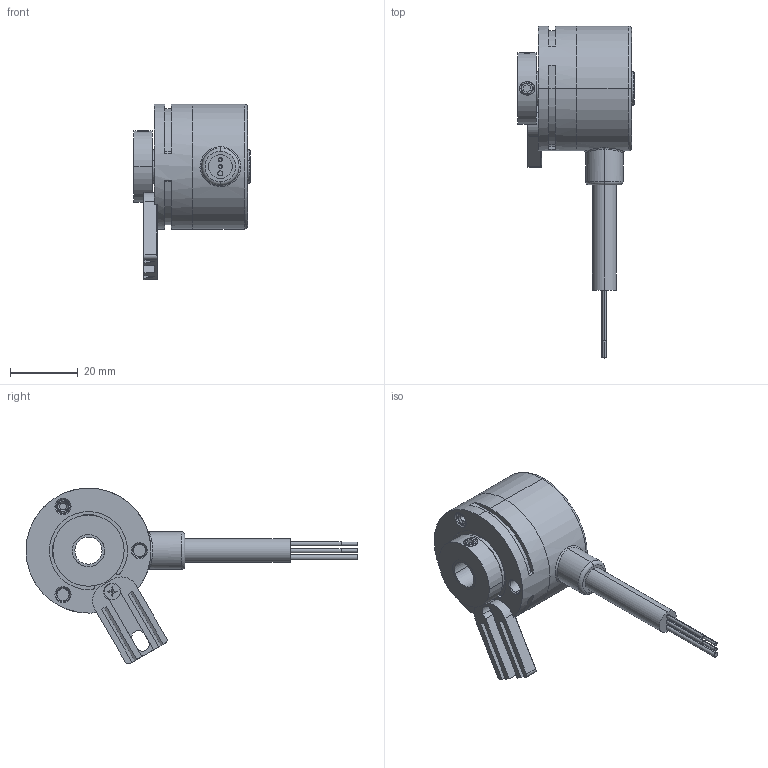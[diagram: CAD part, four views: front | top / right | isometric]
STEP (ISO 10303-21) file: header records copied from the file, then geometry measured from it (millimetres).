
FILE_DESCRIPTION (( 'STEP AP214' ), '1' );
FILE_NAME ('3720.26X1.XXXX.STEP', '2008-11-28T06:31:45', ( 'admin' ), ( 'Fritz Kübler GmbH' ), 'SwSTEP 2.0', 'SolidWorks 2008', '' );
FILE_SCHEMA (( 'AUTOMOTIVE_DESIGN' ));
Length unit declared in the file: millimetre
Products named in the file (1): 3720.26X1.XXXX
Bounding box: 34.3 x 97.8 x 51.76 mm (x, y, z)
Volume: 16193.2 mm3; surface area: 19029.4 mm2
Topology: 11 solids, 11 shells, 752 faces, 1860 edges, 1151 vertices
Faces by surface type: cylinder 276, plane 232, torus 84, bspline 77, cone 58, sphere 25
Entity records: 33392 total; most frequent: CARTESIAN_POINT 7723, DIRECTION 3690, ORIENTED_EDGE 3674, EDGE_CURVE 1837, AXIS2_PLACEMENT_3D 1508, VERTEX_POINT 1141, CIRCLE 832, EDGE_LOOP 808
